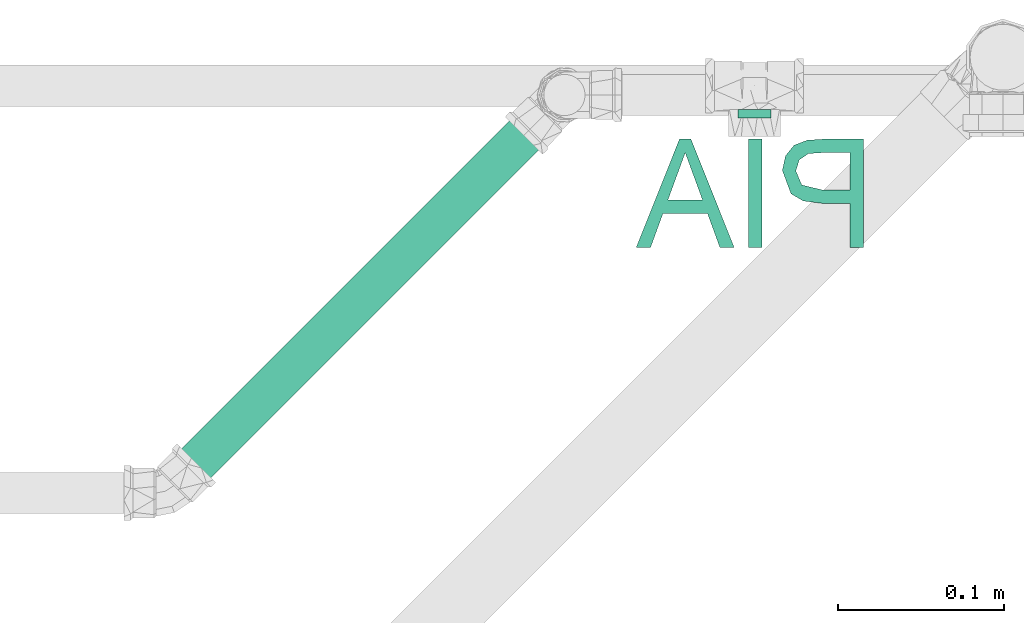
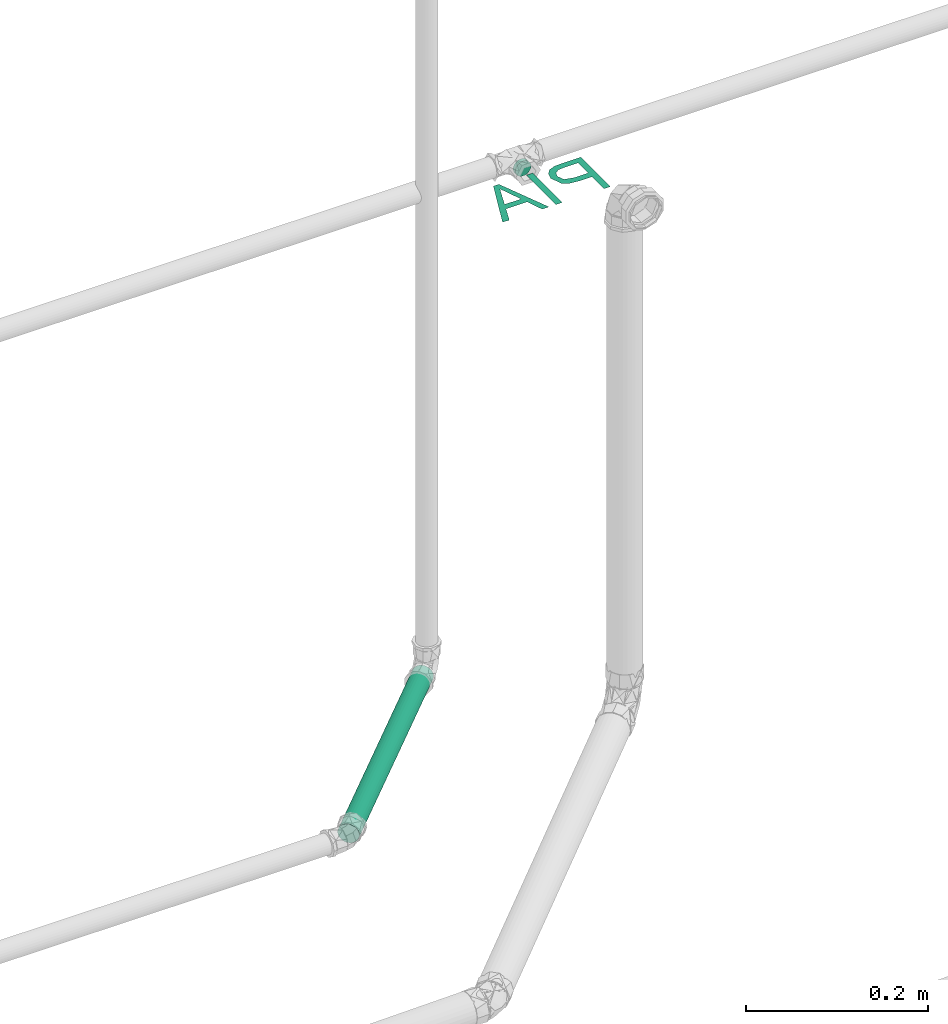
# One storey, part 72 of 589: 1 flow segment, 1 flow terminal.
"""IFC2X3 building model written with IfcOpenShell, lengths in millimetres."""

from ifc_helpers import new_model, entity, si_unit, converted_unit, derived_unit, direction, frame, frame_2d, origin, place, context, subcontext, project, spatial, circle, extrude, face_set, surface_model, source, transform, mapped, material, type_object, type_shapes, element, save


model = new_model("IFC2X3")

# Units and contexts
model_context = context("Model", 3, precision=0.01, world=origin(), true_north=direction((6.123031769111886e-17, 1.0)))
body_context = subcontext(model_context, "Body", "Model", "MODEL_VIEW")
ifc_project = project(units=[si_unit("LENGTHUNIT", "METRE", prefix="MILLI"), si_unit("AREAUNIT", "SQUARE_METRE"), si_unit("VOLUMEUNIT", "CUBIC_METRE"), converted_unit("PLANEANGLEUNIT", "DEGREE", entity("IfcRatioMeasure", 0.017453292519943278), si_unit("PLANEANGLEUNIT", "RADIAN"), dimensions=[0, 0, 0, 0, 0, 0, 0]), si_unit("MASSUNIT", "GRAM", prefix="KILO"), derived_unit("MASSDENSITYUNIT", [(si_unit("MASSUNIT", "GRAM", prefix="KILO"), 1), (si_unit("LENGTHUNIT", "METRE"), -3)]), derived_unit("IONCONCENTRATIONUNIT", [(si_unit("MASSUNIT", "GRAM", prefix="KILO"), 1), (si_unit("LENGTHUNIT", "METRE"), -3)]), derived_unit("MOMENTOFINERTIAUNIT", [(si_unit("LENGTHUNIT", "METRE"), 4)]), si_unit("TIMEUNIT", "SECOND"), si_unit("FREQUENCYUNIT", "HERTZ"), si_unit("THERMODYNAMICTEMPERATUREUNIT", "DEGREE_CELSIUS"), derived_unit("THERMALTRANSMITTANCEUNIT", [(si_unit("MASSUNIT", "GRAM", prefix="KILO"), 1), (si_unit("THERMODYNAMICTEMPERATUREUNIT", "KELVIN"), -1), (si_unit("TIMEUNIT", "SECOND"), -3)]), derived_unit("THERMALCONDUCTANCEUNIT", [(si_unit("MASSUNIT", "GRAM", prefix="KILO"), 1), (si_unit("THERMODYNAMICTEMPERATUREUNIT", "KELVIN"), -1), (si_unit("TIMEUNIT", "SECOND"), -3), (si_unit("LENGTHUNIT", "METRE"), 1)]), derived_unit("VOLUMETRICFLOWRATEUNIT", [(si_unit("LENGTHUNIT", "METRE"), 3), (si_unit("TIMEUNIT", "SECOND"), -1)]), derived_unit("MASSFLOWRATEUNIT", [(si_unit("MASSUNIT", "GRAM", prefix="KILO"), 1), (si_unit("TIMEUNIT", "SECOND"), -1)]), derived_unit("ROTATIONALFREQUENCYUNIT", [(si_unit("TIMEUNIT", "SECOND"), -1)]), si_unit("ELECTRICCURRENTUNIT", "AMPERE"), si_unit("ELECTRICVOLTAGEUNIT", "VOLT"), si_unit("POWERUNIT", "WATT"), si_unit("FORCEUNIT", "NEWTON", prefix="KILO"), si_unit("ILLUMINANCEUNIT", "LUX"), si_unit("LUMINOUSFLUXUNIT", "LUMEN"), si_unit("LUMINOUSINTENSITYUNIT", "CANDELA"), derived_unit("USERDEFINED", [(si_unit("MASSUNIT", "GRAM", prefix="KILO"), -1), (si_unit("LENGTHUNIT", "METRE"), -2), (si_unit("TIMEUNIT", "SECOND"), 3), (si_unit("LUMINOUSFLUXUNIT", "LUMEN"), 1)]), derived_unit("USERDEFINED", [(si_unit("MASSUNIT", "GRAM", prefix="KILO"), 1), (si_unit("TIMEUNIT", "SECOND"), -3), (si_unit("LENGTHUNIT", "METRE"), 3), (si_unit("ELECTRICCURRENTUNIT", "AMPERE"), -2)]), derived_unit("SOUNDPOWERUNIT", [(si_unit("MASSUNIT", "GRAM", prefix="KILO"), 1), (si_unit("TIMEUNIT", "SECOND"), -3), (si_unit("LENGTHUNIT", "METRE"), 2)]), derived_unit("SOUNDPRESSUREUNIT", [(si_unit("MASSUNIT", "GRAM", prefix="KILO"), 1), (si_unit("LENGTHUNIT", "METRE"), -1), (si_unit("TIMEUNIT", "SECOND"), -2)]), derived_unit("LINEARVELOCITYUNIT", [(si_unit("LENGTHUNIT", "METRE"), 1), (si_unit("TIMEUNIT", "SECOND"), -1)]), si_unit("PRESSUREUNIT", "PASCAL"), derived_unit("USERDEFINED", [(si_unit("MASSUNIT", "GRAM", prefix="KILO"), 1), (si_unit("LENGTHUNIT", "METRE"), -2), (si_unit("TIMEUNIT", "SECOND"), -2)]), derived_unit("LINEARFORCEUNIT", [(si_unit("MASSUNIT", "GRAM", prefix="KILO"), 1), (si_unit("TIMEUNIT", "SECOND"), -2)]), derived_unit("PLANARFORCEUNIT", [(si_unit("MASSUNIT", "GRAM", prefix="KILO"), 1), (si_unit("LENGTHUNIT", "METRE"), -1), (si_unit("TIMEUNIT", "SECOND"), -2)]), derived_unit("SPECIFICHEATCAPACITYUNIT", [(si_unit("THERMODYNAMICTEMPERATUREUNIT", "KELVIN"), -1), (si_unit("LENGTHUNIT", "METRE"), 2), (si_unit("TIMEUNIT", "SECOND"), -2)]), derived_unit("HEATINGVALUEUNIT", [(si_unit("LENGTHUNIT", "METRE"), 2), (si_unit("TIMEUNIT", "SECOND"), -2)]), derived_unit("VAPORPERMEABILITYUNIT", [(si_unit("LENGTHUNIT", "METRE"), -1), (si_unit("TIMEUNIT", "SECOND"), 1)]), derived_unit("DYNAMICVISCOSITYUNIT", [(si_unit("MASSUNIT", "GRAM", prefix="KILO"), 1), (si_unit("TIMEUNIT", "SECOND"), -1), (si_unit("LENGTHUNIT", "METRE"), -1)]), derived_unit("THERMALEXPANSIONCOEFFICIENTUNIT", [(si_unit("THERMODYNAMICTEMPERATUREUNIT", "KELVIN"), -1)]), derived_unit("MODULUSOFELASTICITYUNIT", [(si_unit("MASSUNIT", "GRAM", prefix="KILO"), 1), (si_unit("LENGTHUNIT", "METRE"), -1), (si_unit("TIMEUNIT", "SECOND"), -2)]), derived_unit("ISOTHERMALMOISTURECAPACITYUNIT", [(si_unit("LENGTHUNIT", "METRE"), 3), (si_unit("MASSUNIT", "GRAM", prefix="KILO"), -1)]), derived_unit("MOISTUREDIFFUSIVITYUNIT", [(si_unit("TIMEUNIT", "SECOND"), -1), (si_unit("LENGTHUNIT", "METRE"), 2)])], contexts=[model_context])

# Site, building, storey
site_placement = place(None, origin())
site = spatial("IfcSite", under=ifc_project, at=site_placement, Name="Default", CompositionType="ELEMENT")
building_placement = place(site_placement, origin())
building = spatial("IfcBuilding", under=site, at=building_placement, CompositionType="ELEMENT")
storey_placement = place(building_placement, frame((0.0, 0.0, 100.0)))
storey = spatial("IfcBuildingStorey", under=building, at=storey_placement, Name="TÉRREO", CompositionType="ELEMENT", Elevation=100.0)

# Flow segment
pipe_segment_type = type_object("IfcPipeSegmentType", Name="Tipos de tubos:PVC Marrom Soldável", PredefinedType="NOTDEFINED")
flow_segment_placement = place(storey_placement, origin())
element("IfcFlowSegment", 1, at=flow_segment_placement, inside=storey, type_object=pipe_segment_type, Name="Tipos de tubos:PVC Marrom Soldável", ObjectType="Tipos de tubos:PVC Marrom Soldável", context=body_context, shape_type="SweptSolid", body=[
    extrude(circle(Radius=12.5, at=frame_2d((-4.850833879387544e-18, 2.7666544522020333e-08), x_axis=(1.0, 0.0))), frame((-6443.1892049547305, -4562.724424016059, -37.35213227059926), z_axis=(0.7071068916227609, 0.707106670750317, 0.0), x_axis=(-0.707106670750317, 0.7071068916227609, 0.0)), (0.0, 0.0, 1.0), 315.87979422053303),
])

# Flow terminal
ifc_material = material(Name="<Unnamed>")
distribution_element_type = type_object("IfcDistributionElementType", Name="Hidráulica_Ponto de Utilização_Uso Provável_Rodrigo MEP:Pia com torneira ou misturador(Peso 0,7)", material=ifc_material)
shared_shape = source(origin(), body_context, "Body", "SurfaceModel", [
    surface_model("IfcFaceBasedSurfaceModel", [(0.0, 83.06704158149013, 11.595272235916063), (0.0, 17.77043998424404, 11.595272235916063), (24.199277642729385, 17.77043998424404, 11.595272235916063), (33.95550815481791, 18.39216055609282, 11.595272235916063), (41.88643083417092, 21.44496797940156, 11.595272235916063), (47.02758171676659, 27.757823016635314, 11.595272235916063), (48.97245119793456, 36.661180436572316, 11.595272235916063), (43.7197094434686, 50.7694549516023, 11.595272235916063), (36.352719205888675, 55.09758662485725, 11.595272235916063), (24.757232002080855, 56.5402971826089, 11.595272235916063), (8.162075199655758, 56.5402971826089, 11.595272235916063), (8.162075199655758, 83.06704158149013, 11.595272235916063), (8.162075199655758, 48.37822198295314, 11.595272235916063), (25.235478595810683, 48.37822198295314, 11.595272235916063), (37.25540965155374, 45.381209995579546, 11.595272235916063), (40.81037599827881, 36.94812839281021, 11.595272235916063), (38.71406176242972, 30.188909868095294, 11.595272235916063), (33.20625515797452, 26.49046954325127, 11.595272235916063), (25.044179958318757, 25.9325151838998, 11.595272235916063), (8.162075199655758, 25.9325151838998, 11.595272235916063), (61.21556399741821, 83.06704158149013, 11.595272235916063), (61.21556399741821, 17.77043998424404, 11.595272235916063), (69.37763919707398, 17.77043998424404, 11.595272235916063), (69.37763919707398, 83.06704158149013, 11.595272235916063), (78.0976687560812, 83.06704158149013, 11.595272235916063), (104.16210811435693, 17.77043998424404, 11.595272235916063), (111.11262527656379, 17.77043998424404, 11.595272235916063), (137.17706463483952, 83.06704158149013, 11.595272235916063), (128.55268439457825, 83.06704158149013, 11.595272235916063), (121.07609597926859, 62.66185358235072, 11.595272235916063), (94.18269585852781, 62.66185358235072, 11.595272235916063), (86.72204899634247, 83.06704158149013, 11.595272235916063), (97.17970784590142, 54.49977838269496, 11.595272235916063), (118.0950255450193, 54.49977838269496, 11.595272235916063), (112.21259244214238, 38.44663438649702, 11.595272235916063), (107.63736669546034, 25.9325151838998, 11.595272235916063), (103.5722706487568, 37.04377771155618, 11.595272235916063), (55.806731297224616, 5.0, 11.595272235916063), (56.14747303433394, 5.0, 14.18346268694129), (57.14647725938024, 5.0, 16.595272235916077), (58.735663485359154, 5.0, 18.666340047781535), (60.80673129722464, 5.0, 20.255526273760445), (63.218540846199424, 5.0, 21.254530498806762), (65.80673129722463, 5.0, 21.59527223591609), (68.39492174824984, 5.0, 21.254530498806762), (70.80673129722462, 5.0, 20.255526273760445), (72.87779910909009, 5.0, 18.666340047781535), (74.46698533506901, 5.0, 16.595272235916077), (75.4659895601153, 5.0, 14.18346268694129), (75.80673129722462, 5.0, 11.595272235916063), (75.46598956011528, 5.0, 9.007081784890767), (74.46698533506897, 5.0, 6.595272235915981), (72.87779910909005, 5.0, 4.524204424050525), (70.80673129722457, 5.0, 2.9350181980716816), (68.39492174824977, 5.0, 1.936013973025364), (65.80673129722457, 5.0, 1.5952722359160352), (63.218540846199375, 5.0, 1.936013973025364), (60.80673129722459, 5.0, 2.9350181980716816), (58.73566348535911, 5.0, 4.524204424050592), (57.14647725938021, 5.0, 6.595272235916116), (56.14747303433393, 5.0, 9.007081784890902), (55.806731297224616, 0.0, 11.595272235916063), (56.14747303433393, 0.0, 9.007081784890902), (57.14647725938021, 0.0, 6.595272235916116), (58.73566348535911, 0.0, 4.524204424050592), (60.80673129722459, 0.0, 2.9350181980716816), (63.218540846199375, 0.0, 1.936013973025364), (65.80673129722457, 0.0, 1.5952722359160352), (68.39492174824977, 0.0, 1.936013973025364), (70.80673129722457, 0.0, 2.9350181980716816), (72.87779910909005, 0.0, 4.524204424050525), (74.46698533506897, 0.0, 6.595272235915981), (75.46598956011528, 0.0, 9.007081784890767), (75.80673129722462, 0.0, 11.595272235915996), (75.4659895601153, 0.0, 14.18346268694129), (74.46698533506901, 0.0, 16.595272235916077), (72.87779910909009, 0.0, 18.666340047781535), (70.80673129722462, 0.0, 20.255526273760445), (68.39492174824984, 0.0, 21.254530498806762), (65.80673129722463, 0.0, 21.59527223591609), (63.218540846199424, 0.0, 21.254530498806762), (60.80673129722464, 0.0, 20.255526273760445), (58.735663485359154, 0.0, 18.666340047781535), (57.14647725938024, 0.0, 16.595272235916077), (56.14747303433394, 0.0, 14.18346268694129)], [face_set([[[0, 1, 2, 3, 4, 5, 6, 7, 8, 9, 10, 11], [12, 13, 14, 15, 16, 17, 18, 19]], [[20, 21, 22, 23]], [[24, 25, 26, 27, 28, 29, 30, 31], [32, 33, 34, 35, 36]]]), face_set([[[37, 38, 39, 40, 41, 42, 43, 44, 45, 46, 47, 48, 49, 50, 51, 52, 53, 54, 55, 56, 57, 58, 59, 60]], [[61, 62, 63, 64, 65, 66, 67, 68, 69, 70, 71, 72, 73, 74, 75, 76, 77, 78, 79, 80, 81, 82, 83, 84]], [[60, 62, 61, 37]], [[59, 63, 62, 60]], [[57, 65, 64, 58]], [[58, 64, 63, 59]], [[56, 66, 65, 57]], [[66, 56, 55, 67]], [[54, 68, 67, 55]], [[53, 69, 68, 54]], [[51, 71, 70, 52]], [[52, 70, 69, 53]], [[50, 72, 71, 51]], [[72, 50, 49, 73]], [[48, 74, 73, 49]], [[47, 75, 74, 48]], [[45, 77, 76, 46]], [[46, 76, 75, 47]], [[44, 78, 77, 45]], [[78, 44, 43, 79]], [[42, 80, 79, 43]], [[41, 81, 80, 42]], [[39, 83, 82, 40]], [[40, 82, 81, 41]], [[38, 84, 83, 39]], [[84, 38, 37, 61]]])]),
])
type_shapes(distribution_element_type, [shared_shape])
flow_terminal_placement = place(storey_placement, frame((-6027.4987687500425, -4336.525782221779, 588.4047277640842), z_axis=(0.0, 0.0, 1.0), x_axis=(-1.0, 0.0, 0.0)))
element("IfcFlowTerminal", 2, at=flow_terminal_placement, inside=storey, type_object=distribution_element_type, material=ifc_material, Name="Hidráulica_Ponto de Utilização_Uso Provável_Rodrigo MEP:Pia com torneira ou misturador(Peso 0,7)", ObjectType="Hidráulica_Ponto de Utilização_Uso Provável_Rodrigo MEP:Pia com torneira ou misturador(Peso 0,7)", context=body_context, shape_type="MappedRepresentation", body=[
    mapped(shared_shape, transform((0.0, 0.0, 0.0), scale=1.0)),
])

save(model, "model.ifc")
